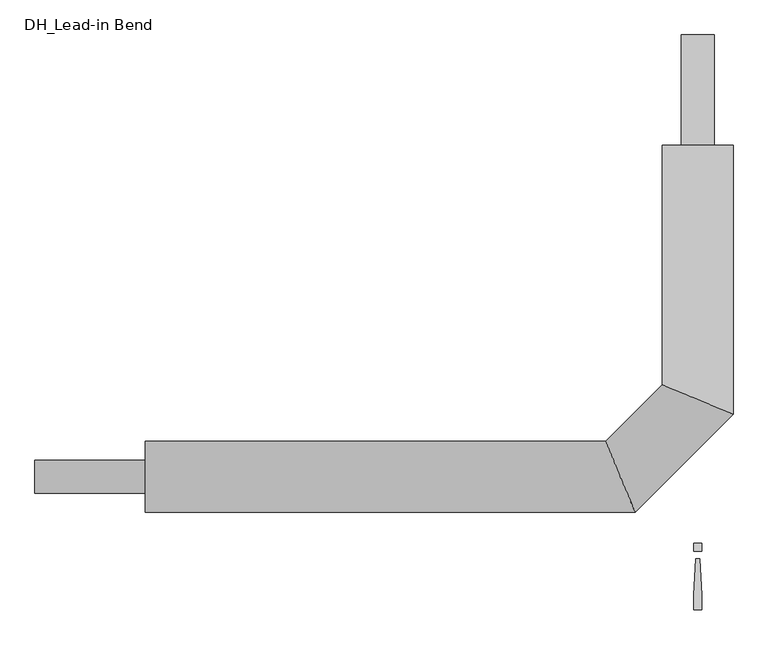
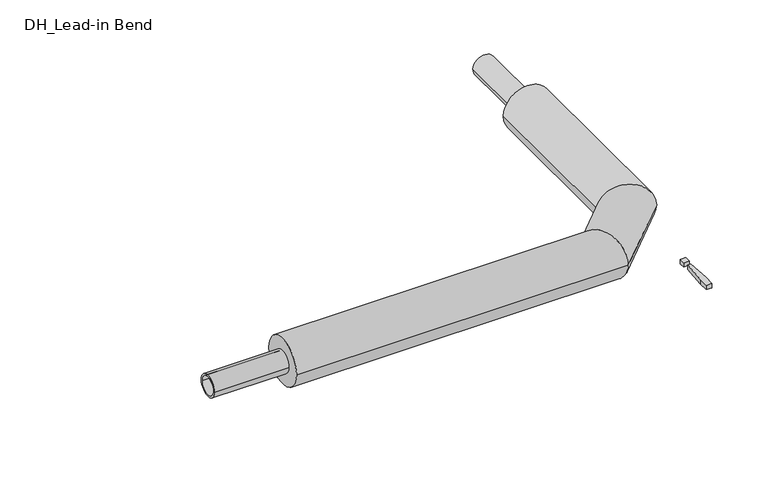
"""IFC4 building model written with IfcOpenShell, lengths in millimetres: pipe fitting geometry, DH_Lead-in Bend : INSULPEX UNO + 11 Heating."""

from ifc_helpers import new_model, si_unit, point, frame, origin, origin_with_axes, origin_2d, place, context, project, spatial, polyline, circle_curve, ellipse_curve, trimmed, segment, composite_curve, outline, extrude, source, transform, mapped, element, save
from ifc_brep_helpers import plane_surface, cylinder_surface, advanced_brep


def dh_lead_in_bend_c3f83f1c(model_context):
    return source(origin(), model_context, "Body", "SolidModel", [
        advanced_brep(
        [(-1250.0, -80.0, 0.0), (-1250.0, 80.0, 0.0), (-141.862915, -80.0, 0.0), (-208.137085, 80.0, 0.0), (80.0, 750.0, 0.0), (-80.0, 750.0, 0.0), (-80.0, 208.137085, 0.0), (80.0, 141.862915, 0.0)],
        [
            (0, 1, circle_curve(frame((-1250.0, 0.0, 0.0), z_axis=(-1.0, 0.0, 0.0), x_axis=(0.0, 1.0, 0.0)), 80.0)),
            (1, 0, circle_curve(frame((-1250.0, 0.0, 0.0), z_axis=(-1.0, 0.0, 0.0), x_axis=(0.0, 1.0, 0.0)), 80.0)),
            (0, 2),
            (2, 3, ellipse_curve(frame((-175.0, 0.0, 0.0), z_axis=(-0.9238795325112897, -0.3826834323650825, 0.0), x_axis=(-0.38268343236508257, 0.9238795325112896, 0.0)), 86.591376, 80.0)),
            (3, 1),
            (3, 2, ellipse_curve(frame((-175.0, 0.0, 0.0), z_axis=(-0.9238795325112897, -0.3826834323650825, 0.0), x_axis=(-0.38268343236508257, 0.9238795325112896, 0.0)), 86.591376, 80.0)),
            (4, 5, circle_curve(frame((0.0, 750.0, 0.0), z_axis=(0.0, 1.0, 0.0), x_axis=(-1.0, 0.0, 0.0)), 80.0)),
            (5, 4, circle_curve(frame((0.0, 750.0, 0.0), z_axis=(0.0, 1.0, 0.0), x_axis=(-1.0, 0.0, 0.0)), 80.0)),
            (6, 7, ellipse_curve(frame((0.0, 175.0, 0.0), z_axis=(0.3826834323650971, 0.9238795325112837, 0.0), x_axis=(0.9238795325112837, -0.382683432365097, 0.0)), 86.591376, 80.0)),
            (7, 4),
            (5, 6),
            (7, 6, ellipse_curve(frame((0.0, 175.0, 0.0), z_axis=(0.3826834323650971, 0.9238795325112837, 0.0), x_axis=(0.9238795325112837, -0.382683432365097, 0.0)), 86.591376, 80.0)),
            (2, 7),
            (6, 3),
        ],
        [
            plane_surface(frame((-1250.0, 0.0, 0.0), z_axis=(-1.0, 0.0, 0.0), x_axis=(0.0, 0.0, 1.0))),
            cylinder_surface(frame((-1250.0, 0.0, 0.0), z_axis=(-1.0, 0.0, 0.0), x_axis=(0.0, 1.0, 0.0)), 80.0),
            plane_surface(frame((0.0, 750.0, 0.0), z_axis=(0.0, 1.0, 0.0), x_axis=(0.0, 0.0, 1.0))),
            cylinder_surface(frame((0.0, 175.0, 0.0), z_axis=(0.0, -1.0, 0.0), x_axis=(-1.0, 0.0, 0.0)), 80.0),
            cylinder_surface(frame((-175.0, 0.0, 0.0), z_axis=(-0.7071067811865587, -0.7071067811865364, 0.0), x_axis=(-0.7071067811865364, 0.7071067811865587, 0.0)), 80.0),
        ],
        [
            (0, [[1, 2]]),
            (1, [[-1, 3, 4, 5]]),
            (1, [[-2, -5, 6, -3]]),
            (2, [[7, 8]]),
            (3, [[9, 10, -8, 11]]),
            (3, [[12, -11, -7, -10]]),
            (4, [[-4, 13, -9, 14]]),
            (4, [[-6, -14, -12, -13]]),
        ],
    ),
        extrude(outline(polyline([(4.7088895, -185.3166715), (9.4177791, -266.6553807), (9.4177791, -300.6844652), (-9.4177791, -300.6844652), (-9.4177791, -266.6553807), (-4.7088895, -185.3166715), (4.7088895, -185.3166715)])), origin_with_axes(), (0.0, 0.0, 1.0), 15.0),
        extrude(outline(polyline([(9.4177791, -150.0), (9.4177791, -168.8355582), (-9.4177791, -168.8355582), (-9.4177791, -150.0), (9.4177791, -150.0)])), origin_with_axes(), (0.0, 0.0, 1.0), 15.0),
        extrude(outline(composite_curve([segment(trimmed(circle_curve(origin_2d(), 37.5), [point((-37.5, 0.0))], [point((37.5, 0.0))], False, "CARTESIAN"), True, "CONTINUOUS"), segment(trimmed(circle_curve(origin_2d(), 37.5), [point((37.5, 0.0))], [point((-37.5, 0.0))], False, "CARTESIAN"), True, "CONTINUOUS")], self_intersect=False), holes=[composite_curve([segment(trimmed(circle_curve(origin_2d(), 30.7), [point((-30.7, 0.0))], [point((30.7, 0.0))], True, "CARTESIAN"), True, "CONTINUOUS"), segment(trimmed(circle_curve(origin_2d(), 30.7), [point((30.7, 0.0))], [point((-30.7, 0.0))], True, "CARTESIAN"), True, "CONTINUOUS")], self_intersect=False)]), frame((-1500.0, 0.0, 0.0), z_axis=(1.0, 0.0, 0.0), x_axis=(0.0, 1.0, 0.0)), (0.0, 0.0, 1.0), 250.0),
        extrude(outline(composite_curve([segment(trimmed(circle_curve(origin_2d(), 37.5), [point((0.0, 37.5))], [point((0.0, -37.5))], False, "CARTESIAN"), True, "CONTINUOUS"), segment(trimmed(circle_curve(origin_2d(), 37.5), [point((0.0, -37.5))], [point((0.0, 37.5))], False, "CARTESIAN"), True, "CONTINUOUS")], self_intersect=False), holes=[composite_curve([segment(trimmed(circle_curve(origin_2d(), 30.7), [point((0.0, 30.7))], [point((0.0, -30.7))], True, "CARTESIAN"), True, "CONTINUOUS"), segment(trimmed(circle_curve(origin_2d(), 30.7), [point((0.0, -30.7))], [point((0.0, 30.7))], True, "CARTESIAN"), True, "CONTINUOUS")], self_intersect=False)]), frame((0.0, 750.0, 0.0), z_axis=(0.0, 1.0, 0.0), x_axis=(0.0, 0.0, 1.0)), (0.0, 0.0, 1.0), 250.0),
    ])


if __name__ == "__main__":
    model = new_model("IFC4")
    model_context = context("Model", 3, world=origin())
    ifc_project = project(units=[si_unit("LENGTHUNIT", "METRE", prefix="MILLI")], contexts=[model_context])
    site = spatial("IfcSite", under=ifc_project)
    building = spatial("IfcBuilding", under=site)
    placement = place(None, origin())
    dh_lead_in_bend_shape = dh_lead_in_bend_c3f83f1c(model_context)
    element("IfcPipeFitting", 1, ObjectType="DH_Lead-in Bend : INSULPEX UNO + 11 Heating", at=placement, inside=building, context=model_context, shape_type="MappedRepresentation", body=[
        mapped(dh_lead_in_bend_shape, transform((0.0, 0.0, 0.0), x_axis=(1.0, 0.0, 0.0), y_axis=(0.0, 1.0, 0.0), z_axis=(0.0, 0.0, 1.0))),
    ])
    save(model, "model.ifc")
